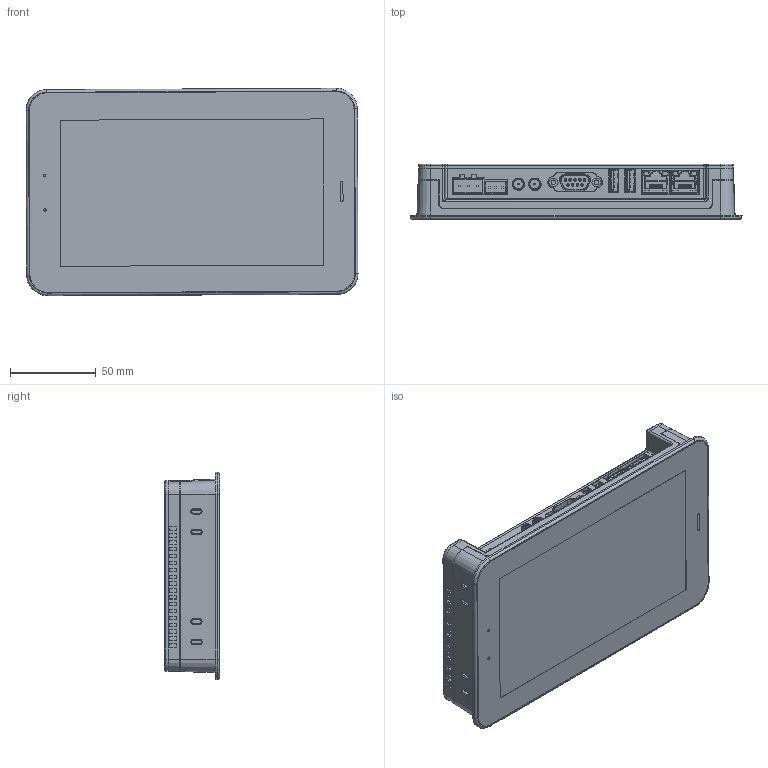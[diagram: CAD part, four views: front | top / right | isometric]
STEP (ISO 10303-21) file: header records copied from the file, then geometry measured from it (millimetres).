
FILE_DESCRIPTION (( 'STEP AP203' ), '1' );
FILE_NAME ('HMI-A7Pro炵蹈 籵蚚3D.STEP', '2024-03-19T11:19:12', ( 'h''w''s''j''s' ), ( '' ), 'SwSTEP 2.0', 'SolidWorks 2020', '' );
FILE_SCHEMA (( 'CONFIG_CONTROL_DESIGN' ));
Products named in the file (1): HMI-A7Pro炵蹈 籵蚚3D
Bounding box: 193.54 x 32.32 x 120.85 mm (x, y, z)
Volume: 561609.6 mm3; surface area: 181713 mm2
Topology: 3 solids, 4 shells, 3811 faces, 10483 edges, 6672 vertices
Faces by surface type: plane 2879, cylinder 679, cone 98, bspline 57, torus 51, sphere 47
Entity records: 144132 total; most frequent: CARTESIAN_POINT 49443, ORIENTED_EDGE 20864, DIRECTION 17818, EDGE_CURVE 10432, LINE 7604, VECTOR 7604, VERTEX_POINT 6668, AXIS2_PLACEMENT_3D 5107
